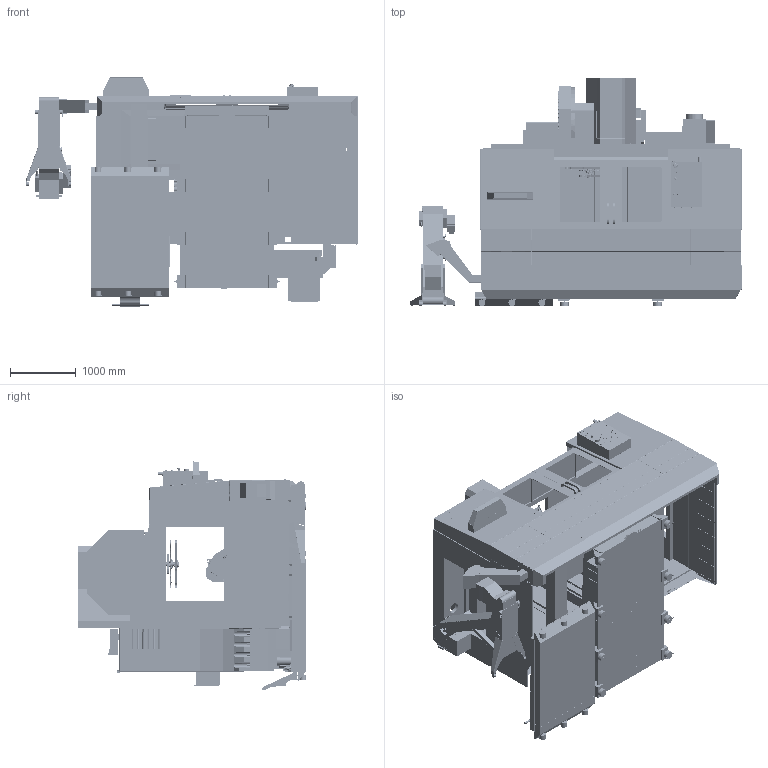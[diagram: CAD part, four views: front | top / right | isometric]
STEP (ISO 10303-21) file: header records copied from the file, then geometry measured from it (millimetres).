
FILE_DESCRIPTION (( 'STEP AP214' ), '1' );
FILE_NAME ('vf-8_40_step_z-ext_5_2022.step', '2022-05-16T22:40:02', ( '' ), ( '' ), 'SwSTEP 2.0', 'SolidWorks 2021', '' );
FILE_SCHEMA (( 'AUTOMOTIVE_DESIGN' ));
Length unit declared in the file: inch
Products named in the file (61): CABCOOL_VF-8_40_5_2022; ANCHORING-VF-8-9; COLUMN_VF-8_40_5_2022; 95-GAL COOLANT TANK_VF-8_40_5_2022; 37-0649_DEF; 30-SMTC ARM LOW _VF-8_40_5_2022; Coolant Ring-A; HPC_VF-8_40_5_2022; 30-SMTC ARM-VF-L; Door Closed Cover Up_defeature^10000096509_DEF; PENDANT STORAGE; 10000057196_Pendant_Common_32-6042 FRONT PANEL ASSY MILL SST FREE HANG_defeature; ANCHORING LOCATIONS_VF-8_40_5_2022; 50-SMTC _VF-8_40_5_2022; CONV-HOLDER-VF-MD; 10000095056_defeature; SADDLE_VF-8_40_5_2022; ENCLOSURE Z-EXT_VF-8_40_5_2022; EES_VF-8_40_5_2022; E-CABIN_VF-8_40_5_2022; 10000019000_DEF; ENCL-TOP-VF-8; 37-3951_DEF; PENDANT AND STORAGE; CHIP CHUTE_VF-8_40_5_2022; 10000096509_DEF_Door Closed Cover Up_defeature; ENCL-BOTTOM-VF-8; 30-SMTC_VF-8_40_5_2022; TABLE_VF-8_40_5_2022; DOOR-VF-8_DEF; 50-SMTC ARM HIGH _VF-8_40_5_2022; ELECTIRCAL CABINET_DOOR CLOSED; 50-SMTC ARM-VF-L; 50-SMTC ARM LOW _VF-8_40_5_2022; HAAS-P-COOL; 37-2253_DEF; DOOR_VF-8_40_5_2022; AAG_VF-8_40_5_2022; ENCLOSURE EXHAUST SYSTEM; 10000101772_defeature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
Assembly tree (69 placements, depth 5):
  vf-8_40_step_z-ext_5_2022
    BASE_VF-8_40_5_2022
      10000128018_DEF
    COLUMN_VF-8_40_5_2022
      37-0649_DEF
    ENCLOSURE TOP _VF-8_40_5_2022
      ENCL-TOP-VF-8
    ENCLOSURE Z-EXT_VF-8_40_5_2022
      37-2253_DEF
    ENCLOSURE BOTTOM_VF-8_40_5_2022
      ENCL-BOTTOM-VF-8
    DOOR_VF-8_40_5_2022
      DOOR-VF-8_DEF
    PADS_VF-8_40_5_2022
      Pads and Stud  x8
    PENDANT _VF-8_40_5_2022
      PENDANT AND STORAGE
        PENDANT STORAGE
        10000057196_Pendant_Common_32-6042 FRONT PANEL ASSY MILL SST FREE HANG_defeature
          32-6042 FRONT PANEL ASSY MILL SST FREE HANG_defeature^10000057196_Pendant_Common
    CONV PKG_VF-8_40_5_2022
      CONV-HOLDER-VF-MD
    SPINDLE HEAD _VF-8_40_5_2022
      10000019000_DEF
      Coolant Ring-A
      40T Spindle_37-4212
    E-CABIN_VF-8_40_5_2022
      ELECTIRCAL CABINET_DOOR CLOSED
    SADDLE_VF-8_40_5_2022
      10000008987_defeature
    TABLE_VF-8_40_5_2022
      10000010575_defeature
    CABCOOL_VF-8_40_5_2022
      CABCOOL
    AIR-CABIN_VF-8_40_5_2022
      10000096509_DEF_Door Closed Cover Up_defeature
        Door Closed Cover Up_defeature^10000096509_DEF
    30-SMTC_VF-8_40_5_2022
      10000101772_defeature
    30-SMTC ARM HIGH_VF-8_40_5_2022
      30-SMTC ARM-VF-L
    30-SMTC ARM LOW _VF-8_40_5_2022
      30-SMTC ARM-VF-L
    50-SMTC _VF-8_40_5_2022
      37-3951_DEF
    50-SMTC ARM HIGH _VF-8_40_5_2022
      50-SMTC ARM-VF-L
    50-SMTC ARM LOW _VF-8_40_5_2022
      50-SMTC ARM-VF-L
    CHIP CHUTE_VF-8_40_5_2022
      10000095056_defeature
    95-GAL COOLANT TANK_VF-8_40_5_2022
      95-Gal Coolant Tank
    EES_VF-8_40_5_2022
      ENCLOSURE EXHAUST SYSTEM
    HPC_VF-8_40_5_2022
      HAAS-P-COOL
    AAG_VF-8_40_5_2022
      AUTOMATIC-AIR-GUN
    HCL_VF-8_40_5_2022
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Bounding box: 5066.08 x 3490.36 x 3494.74 mm (x, y, z)
Volume: 6237660028.8 mm3; surface area: 178189965.9 mm2
Topology: 142 solids, 199 shells, 20452 faces, 54033 edges, 34502 vertices
Faces by surface type: plane 11781, cylinder 5872, bspline 1462, cone 1044, torus 230, sphere 63
Entity records: 850266 total; most frequent: CARTESIAN_POINT 188010, ORIENTED_EDGE 102280, DIRECTION 94171, EDGE_CURVE 51140, VECTOR 34251, LINE 34251, VERTEX_POINT 32805, AXIS2_PLACEMENT_3D 29960
